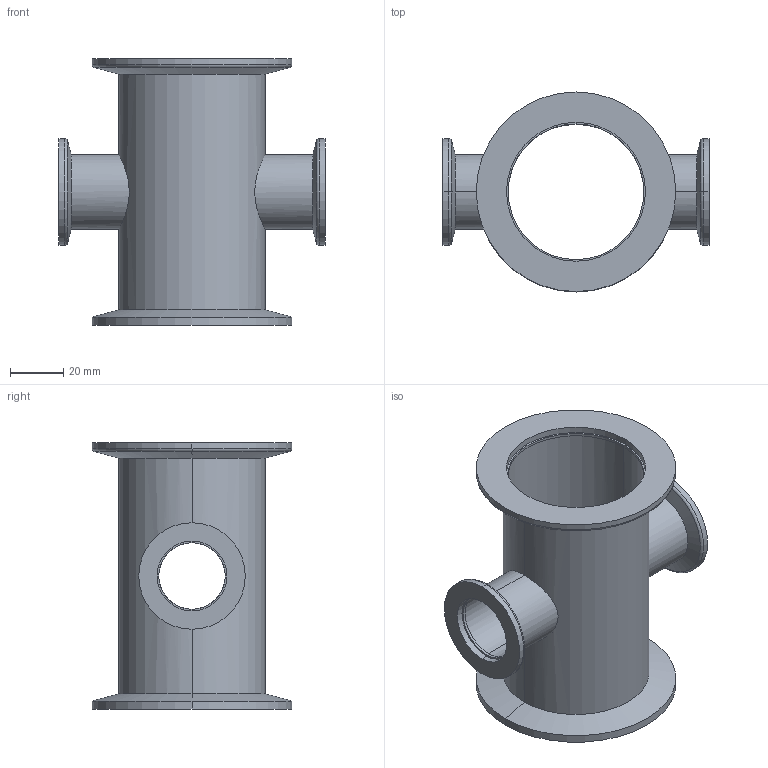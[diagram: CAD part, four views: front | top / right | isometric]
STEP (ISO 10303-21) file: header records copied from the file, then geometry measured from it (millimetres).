
FILE_DESCRIPTION (( 'STEP AP214' ), '1' );
FILE_NAME ('W3RKS50-25.STEP', '2020-08-20T12:39:17', ( '' ), ( '' ), 'SwSTEP 2.0', 'SolidWorks 2020', '' );
FILE_SCHEMA (( 'AUTOMOTIVE_DESIGN' ));
Length unit declared in the file: millimetre
Products named in the file (1): W3RKS50-25
Bounding box: 100 x 75 x 100 mm (x, y, z)
Volume: 59142.5 mm3; surface area: 54883.6 mm2
Topology: 7 solids, 7 shells, 81 faces, 170 edges, 102 vertices
Faces by surface type: cylinder 51, plane 16, cone 8, torus 6
Entity records: 3062 total; most frequent: CARTESIAN_POINT 1160, DIRECTION 410, ORIENTED_EDGE 340, AXIS2_PLACEMENT_3D 174, EDGE_CURVE 170, VERTEX_POINT 102, EDGE_LOOP 98, CIRCLE 92
